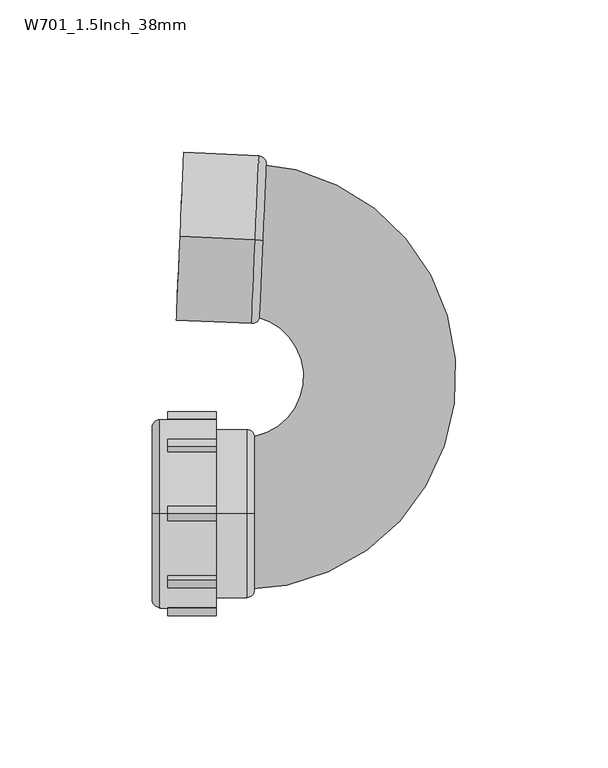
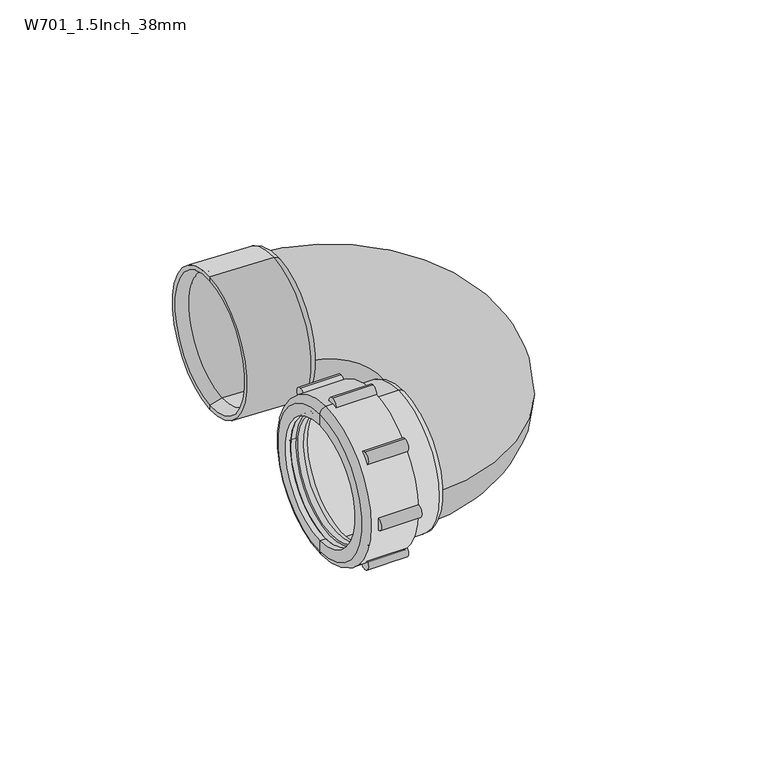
"""IFC4 building model written with IfcOpenShell, lengths in millimetres: pipe fitting geometry, Durapipe_PipeFitting_VulcatheneMechanical_UBend_W70 : W701_1.5Inch_38mm."""

from ifc_helpers import new_model, si_unit, point, frame, frame_2d, origin, place, context, project, spatial, polyline, circle_curve, ellipse_curve, trimmed, segment, composite_curve, outline, extrude, source, transform, mapped, element, save
from ifc_brep_helpers import plane_surface, cylinder_surface, revolved_surface, advanced_brep


def w701_1_5inch_38mm_534380e9(model_context):
    return source(origin(), model_context, "Body", "SolidModel", [
        advanced_brep(
        [(-39.9679341, 89.8655693, -27.65), (-39.9679341, 89.8655693, 27.65), (-37.4703136, 89.7565208, 25.15), (-37.4703136, 89.7565208, -25.15), (-64.6444252, 90.9429681, -27.65), (-64.6444252, 90.9429681, 27.65), (-64.6444252, 90.9429681, -26.0), (-64.6444252, 90.9429681, 26.0), (-43.0649836, 90.0007894, -24.3), (-43.0649836, 90.0007894, 24.3), (-59.9488986, 90.737957, 24.3), (-59.9488986, 90.737957, -24.3), (-42.0659354, 89.95717, -23.3), (-42.0659354, 89.95717, 23.3), (-42.0659354, 89.95717, 0.0), (-37.4703136, 89.7565208, 0.0)],
        [
            (0, 1, circle_curve(frame((-39.9679341, 89.8655693, 0.0), z_axis=(0.9990482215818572, -0.043619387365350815, 0.0), x_axis=(0.0, 0.0, 1.0)), 27.65)),
            (1, 2, circle_curve(frame((-39.9679341, 89.8655693, 25.15), z_axis=(0.04361938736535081, 0.999048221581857, 0.0), x_axis=(0.0, 0.0, 1.0)), 2.5)),
            (2, 3, circle_curve(frame((-37.4703136, 89.7565208, 0.0), z_axis=(-0.9990482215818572, 0.043619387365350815, 0.0), x_axis=(0.0, 0.0, 1.0)), 25.15)),
            (3, 0, circle_curve(frame((-39.9679341, 89.8655693, -25.15), z_axis=(0.04361938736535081, 0.999048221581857, 0.0), x_axis=(0.0, 0.0, -1.0)), 2.5)),
            (1, 0, circle_curve(frame((-39.9679341, 89.8655693, 0.0), z_axis=(0.9990482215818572, -0.043619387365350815, 0.0), x_axis=(0.0, 0.0, 1.0)), 27.65)),
            (3, 2, circle_curve(frame((-37.4703136, 89.7565208, 0.0), z_axis=(-0.9990482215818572, 0.043619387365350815, 0.0), x_axis=(0.0, 0.0, 1.0)), 25.15)),
            (4, 5, circle_curve(frame((-64.6444252, 90.9429681, 0.0), z_axis=(0.9990482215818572, -0.043619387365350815, 0.0), x_axis=(0.0, 0.0, 1.0)), 27.65)),
            (5, 1),
            (0, 4),
            (5, 4, circle_curve(frame((-64.6444252, 90.9429681, 0.0), z_axis=(0.9990482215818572, -0.043619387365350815, 0.0), x_axis=(0.0, 0.0, 1.0)), 27.65)),
            (6, 7, circle_curve(frame((-64.6444252, 90.9429681, 0.0), z_axis=(0.9990482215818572, -0.043619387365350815, 0.0), x_axis=(0.0, 0.0, 1.0)), 26.0)),
            (7, 5),
            (4, 6),
            (7, 6, circle_curve(frame((-64.6444252, 90.9429681, 0.0), z_axis=(0.9990482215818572, -0.043619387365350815, 0.0), x_axis=(0.0, 0.0, 1.0)), 26.0)),
            (8, 9, circle_curve(frame((-43.0649836, 90.0007894, 0.0), z_axis=(0.9990482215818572, -0.043619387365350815, 0.0), x_axis=(0.0, 0.0, 1.0)), 24.3)),
            (9, 10),
            (10, 11, circle_curve(frame((-59.9488986, 90.737957, 0.0), z_axis=(-0.9990482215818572, 0.043619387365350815, 0.0), x_axis=(0.0, 0.0, 1.0)), 24.3)),
            (11, 8),
            (9, 8, circle_curve(frame((-43.0649836, 90.0007894, 0.0), z_axis=(0.9990482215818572, -0.043619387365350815, 0.0), x_axis=(0.0, 0.0, 1.0)), 24.3)),
            (11, 10, circle_curve(frame((-59.9488986, 90.737957, 0.0), z_axis=(-0.9990482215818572, 0.043619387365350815, 0.0), x_axis=(0.0, 0.0, 1.0)), 24.3)),
            (12, 13, circle_curve(frame((-42.0659354, 89.95717, 0.0), z_axis=(0.9990482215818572, -0.043619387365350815, 0.0), x_axis=(0.0, 0.0, 1.0)), 23.3)),
            (13, 9, circle_curve(frame((-43.0649836, 90.0007894, 23.3), z_axis=(-0.04361938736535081, -0.999048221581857, 0.0), x_axis=(0.0, 0.0, 1.0)), 1.0)),
            (8, 12, circle_curve(frame((-43.0649836, 90.0007894, -23.3), z_axis=(-0.04361938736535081, -0.999048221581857, 0.0), x_axis=(0.0, 0.0, -1.0)), 1.0)),
            (13, 12, circle_curve(frame((-42.0659354, 89.95717, 0.0), z_axis=(0.9990482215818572, -0.043619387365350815, 0.0), x_axis=(0.0, 0.0, 1.0)), 23.3)),
            (14, 13),
            (12, 14),
            (2, 15),
            (15, 3),
            (10, 7),
            (6, 11),
        ],
        [
            revolved_surface(trimmed(ellipse_curve(frame((-39.9679341, 89.8655693, 25.15), z_axis=(-0.04361938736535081, -0.999048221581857, 0.0), x_axis=(0.0, 0.0, 1.0)), 2.5, 2.5), [point((-37.4703136, 89.7565208, 25.15))], [point((-39.9679341, 89.8655693, 27.65))], True, "CARTESIAN"), (-76.3462483, 91.4538808, 0.0), (-0.999048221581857, 0.04361938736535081, 0.0)),
            cylinder_surface(frame((-76.3462483, 91.4538808, 0.0), z_axis=(-0.999048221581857, 0.04361938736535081, 0.0), x_axis=(0.0, 0.0, 1.0)), 27.65),
            plane_surface(frame((-64.6444252, 90.9429681, 0.0), z_axis=(-0.9990482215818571, 0.043619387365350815, 0.0), x_axis=(0.0, 0.0, 1.0))),
            revolved_surface(polyline([(-59.94889859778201, 90.7379570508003, 24.3), (-43.06498359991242, 90.00078940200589, 24.3)]), (-76.3462483, 91.4538808, 0.0), (-0.999048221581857, 0.04361938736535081, 0.0)),
            revolved_surface(trimmed(ellipse_curve(frame((-43.0649836, 90.0007894, 23.3), z_axis=(0.04361938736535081, 0.999048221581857, 0.0), x_axis=(0.0, 0.0, 1.0)), 1.0, 1.0), [point((-43.0649836, 90.0007894, 24.3))], [point((-42.0659354, 89.95717, 23.3))], True, "CARTESIAN"), (-76.3462483, 91.4538808, 0.0), (-0.999048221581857, 0.04361938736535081, 0.0)),
            plane_surface(frame((-42.0659354, 89.95717, 0.0), z_axis=(-0.9990482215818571, 0.043619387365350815, 0.0), x_axis=(0.0, 0.0, 1.0))),
            plane_surface(frame((-37.4703136, 89.7565208, 0.0), z_axis=(0.9990482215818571, -0.043619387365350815, 0.0), x_axis=(0.0, 0.0, 1.0))),
            revolved_surface(polyline([(-64.6444252, 90.9429681, 26.0), (-59.9488986, 90.737957, 24.3)]), (-76.3462483, 91.4538808, 0.0), (-0.999048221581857, 0.04361938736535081, 0.0)),
        ],
        [
            (0, [[1, 2, 3, 4]]),
            (0, [[5, -4, 6, -2]]),
            (1, [[7, 8, -1, 9]]),
            (1, [[10, -9, -5, -8]]),
            (2, [[11, 12, -7, 13]]),
            (2, [[14, -13, -10, -12]]),
            (3, [[15, 16, 17, 18]]),
            (3, [[19, -18, 20, -16]]),
            (4, [[21, 22, -15, 23]]),
            (4, [[24, -23, -19, -22]]),
            (5, [[25, -21, 26]]),
            (5, [[-26, -24, -25]]),
            (6, [[-3, 27, 28]]),
            (6, [[-6, -28, -27]]),
            (7, [[-17, 29, -11, 30]]),
            (7, [[-20, -30, -14, -29]]),
        ],
    ),
        advanced_brep(
        [(-71.3288078, -18.5969083, -18.5969083), (-71.3288078, 18.5969083, 18.5969083), (-71.3288078, 17.1119841, 17.1119841), (-71.3288078, -17.1119841, -17.1119841), (-66.3288078, -18.3140656, -18.3140656), (-66.3288078, 18.3140656, 18.3140656), (-64.8288078, -18.1019336, -18.1019336), (-64.8288078, 18.1019336, 18.1019336), (-66.3288078, 18.1019336, 18.1019336), (-66.3288078, -18.1019336, -18.1019336), (-64.8288078, -17.1119841, -17.1119841), (-64.8288078, 17.1119841, 17.1119841), (-66.8288078, -17.1119841, -17.1119841), (-66.8288078, 17.1119841, 17.1119841), (-66.8288078, -16.5462987, -16.5462987), (-66.8288078, 16.5462987, 16.5462987), (-69.1288078, -17.1119841, -17.1119841), (-69.1288078, 17.1119841, 17.1119841), (-69.1288078, 16.5462987, 16.5462987), (-69.1288078, -16.5462987, -16.5462987)],
        [
            (0, 1, circle_curve(frame((-71.3288078, 0.0, 0.0), z_axis=(-1.0, 0.0, 0.0), x_axis=(0.0, 0.7071067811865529, 0.7071067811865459)), 26.3)),
            (1, 2),
            (2, 3, circle_curve(frame((-71.3288078, 0.0, 0.0), z_axis=(1.0, 0.0, 0.0), x_axis=(0.0, 0.7071067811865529, 0.7071067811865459)), 24.2)),
            (3, 0),
            (1, 0, circle_curve(frame((-71.3288078, 0.0, 0.0), z_axis=(-1.0, 0.0, 0.0), x_axis=(0.0, 0.7071067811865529, 0.7071067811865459)), 26.3)),
            (3, 2, circle_curve(frame((-71.3288078, 0.0, 0.0), z_axis=(1.0, 0.0, 0.0), x_axis=(0.0, 0.7071067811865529, 0.7071067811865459)), 24.2)),
            (4, 5, circle_curve(frame((-66.3288078, 0.0, 0.0), z_axis=(-1.0, 0.0, 0.0), x_axis=(0.0, 0.7071067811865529, 0.7071067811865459)), 25.9)),
            (5, 1),
            (0, 4),
            (5, 4, circle_curve(frame((-66.3288078, 0.0, 0.0), z_axis=(-1.0, 0.0, 0.0), x_axis=(0.0, 0.7071067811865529, 0.7071067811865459)), 25.9)),
            (6, 7, circle_curve(frame((-64.8288078, 0.0, 0.0), z_axis=(-1.0, 0.0, 0.0), x_axis=(0.0, 0.7071067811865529, 0.7071067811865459)), 25.6)),
            (7, 8),
            (8, 9, circle_curve(frame((-66.3288078, 0.0, 0.0), z_axis=(1.0, 0.0, 0.0), x_axis=(0.0, 0.7071067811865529, 0.7071067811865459)), 25.6)),
            (9, 6),
            (7, 6, circle_curve(frame((-64.8288078, 0.0, 0.0), z_axis=(-1.0, 0.0, 0.0), x_axis=(0.0, 0.7071067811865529, 0.7071067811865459)), 25.6)),
            (9, 8, circle_curve(frame((-66.3288078, 0.0, 0.0), z_axis=(1.0, 0.0, 0.0), x_axis=(0.0, 0.7071067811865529, 0.7071067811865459)), 25.6)),
            (6, 10),
            (10, 11, circle_curve(frame((-64.8288078, 0.0, 0.0), z_axis=(-1.0, 0.0, 0.0), x_axis=(0.0, 0.7071067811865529, 0.7071067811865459)), 24.2)),
            (11, 7),
            (11, 10, circle_curve(frame((-64.8288078, 0.0, 0.0), z_axis=(-1.0, 0.0, 0.0), x_axis=(0.0, 0.7071067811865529, 0.7071067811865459)), 24.2)),
            (10, 12),
            (12, 13, circle_curve(frame((-66.8288078, 0.0, 0.0), z_axis=(-1.0, 0.0, 0.0), x_axis=(0.0, 0.7071067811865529, 0.7071067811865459)), 24.2)),
            (13, 11),
            (13, 12, circle_curve(frame((-66.8288078, 0.0, 0.0), z_axis=(-1.0, 0.0, 0.0), x_axis=(0.0, 0.7071067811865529, 0.7071067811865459)), 24.2)),
            (12, 14),
            (14, 15, circle_curve(frame((-66.8288078, 0.0, 0.0), z_axis=(-1.0, 0.0, 0.0), x_axis=(0.0, 0.7071067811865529, 0.7071067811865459)), 23.4)),
            (15, 13),
            (15, 14, circle_curve(frame((-66.8288078, 0.0, 0.0), z_axis=(-1.0, 0.0, 0.0), x_axis=(0.0, 0.7071067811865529, 0.7071067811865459)), 23.4)),
            (16, 17, circle_curve(frame((-69.1288078, 0.0, 0.0), z_axis=(-1.0, 0.0, 0.0), x_axis=(0.0, 0.7071067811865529, 0.7071067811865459)), 24.2)),
            (17, 18),
            (18, 19, circle_curve(frame((-69.1288078, 0.0, 0.0), z_axis=(1.0, 0.0, 0.0), x_axis=(0.0, 0.7071067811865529, 0.7071067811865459)), 23.4)),
            (19, 16),
            (17, 16, circle_curve(frame((-69.1288078, 0.0, 0.0), z_axis=(-1.0, 0.0, 0.0), x_axis=(0.0, 0.7071067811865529, 0.7071067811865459)), 24.2)),
            (19, 18, circle_curve(frame((-69.1288078, 0.0, 0.0), z_axis=(1.0, 0.0, 0.0), x_axis=(0.0, 0.7071067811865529, 0.7071067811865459)), 23.4)),
            (2, 17),
            (16, 3),
            (14, 19),
            (18, 15),
            (4, 9),
            (8, 5),
        ],
        [
            plane_surface(frame((-71.3288078, 0.0, 0.0), z_axis=(-1.0, 0.0, 0.0), x_axis=(0.0, 0.707106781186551, 0.707106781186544))),
            revolved_surface(polyline([(-71.3288078, 18.5969083, 18.5969083), (-66.3288078, 18.3140656, 18.3140656)]), (-76.3288078, 0.0, 0.0), (1.0000000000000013, 0.0, 0.0)),
            cylinder_surface(frame((-62.7581521, 0.0, 0.0), z_axis=(1.0000000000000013, 0.0, 0.0), x_axis=(0.0, 0.7071067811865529, 0.7071067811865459)), 25.6),
            plane_surface(frame((-64.8288078, 0.0, 0.0), z_axis=(1.0, 0.0, 0.0), x_axis=(0.0, 0.707106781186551, 0.707106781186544))),
            revolved_surface(polyline([(-64.82880780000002, 17.11198410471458, 17.11198410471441), (-66.82880780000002, 17.11198410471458, 17.11198410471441)]), (-61.3358169, 0.0, 0.0), (1.0000000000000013, 0.0, 0.0)),
            plane_surface(frame((-66.8288078, 0.0, 0.0), z_axis=(1.0, 0.0, 0.0), x_axis=(0.0, 0.707106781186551, 0.707106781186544))),
            plane_surface(frame((-69.1288078, 0.0, 0.0), z_axis=(-1.0, 0.0, 0.0), x_axis=(0.0, 0.707106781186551, 0.707106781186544))),
            revolved_surface(polyline([(-69.12880779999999, 17.11198410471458, 17.11198410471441), (-71.32880779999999, 17.11198410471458, 17.11198410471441)]), (-76.3288078, 0.0, 0.0), (1.0000000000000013, 0.0, 0.0)),
            revolved_surface(polyline([(-66.82880779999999, 16.546298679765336, 16.546298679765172), (-69.12880779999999, 16.546298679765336, 16.546298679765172)]), (-72.8950003, 0.0, 0.0), (1.0000000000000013, 0.0, 0.0)),
            plane_surface(frame((-66.3288078, 0.0, 0.0), z_axis=(1.0, 0.0, 0.0), x_axis=(0.0, 0.707106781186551, 0.707106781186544))),
        ],
        [
            (0, [[1, 2, 3, 4]]),
            (0, [[-2, 5, -4, 6]]),
            (1, [[7, 8, -1, 9]]),
            (1, [[10, -9, -5, -8]]),
            (2, [[11, 12, 13, 14]]),
            (2, [[-12, 15, -14, 16]]),
            (3, [[-11, 17, 18, 19]]),
            (3, [[-15, -19, 20, -17]]),
            (4, [[21, 22, 23, -18]]),
            (4, [[-21, -20, -23, 24]]),
            (5, [[-22, 25, 26, 27]]),
            (5, [[-24, -27, 28, -25]]),
            (6, [[29, 30, 31, 32]]),
            (6, [[33, -32, 34, -30]]),
            (7, [[-3, 35, -29, 36]]),
            (7, [[-6, -36, -33, -35]]),
            (8, [[37, -31, 38, -26]]),
            (8, [[-37, -28, -38, -34]]),
            (9, [[-7, 39, -13, 40]]),
            (9, [[-10, -40, -16, -39]]),
        ],
    ),
        advanced_brep(
        [(-52.8288078, 0.0, -31.0), (-52.8288078, 0.0, 31.0), (-71.2288078, 0.0, 31.0), (-71.2288078, 0.0, -31.0), (-52.8288078, 0.0, -27.7), (-52.8288078, 0.0, 27.7), (-73.7288078, 0.0, -28.5), (-73.7288078, 0.0, 28.5), (-73.7288078, 0.0, 24.0), (-73.7288078, 0.0, -24.0), (-71.3288078, 0.0, -26.0), (-71.3288078, 0.0, 26.0), (-44.0288078, 0.0, 26.0), (-44.0288078, 0.0, -26.0), (-71.3288078, 0.0, -24.0), (-71.3288078, 0.0, 24.0), (-42.7288078, 0.0, -27.7), (-42.7288078, 0.0, 27.7), (-40.2288078, 0.0, -25.2), (-40.2288078, 0.0, 25.2), (-40.2288078, 0.0, 0.0), (-44.0288078, 0.0, 0.0)],
        [
            (0, 1, circle_curve(frame((-52.8288078, 0.0, 0.0), z_axis=(-1.0, 0.0, 0.0), x_axis=(0.0, 0.0, 1.0000000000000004)), 31.0)),
            (1, 2),
            (2, 3, circle_curve(frame((-71.2288078, 0.0, 0.0), z_axis=(1.0, 0.0, 0.0), x_axis=(0.0, 0.0, 1.0000000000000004)), 31.0)),
            (3, 0),
            (1, 0, circle_curve(frame((-52.8288078, 0.0, 0.0), z_axis=(-1.0, 0.0, 0.0), x_axis=(0.0, 0.0, 1.0000000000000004)), 31.0)),
            (3, 2, circle_curve(frame((-71.2288078, 0.0, 0.0), z_axis=(1.0, 0.0, 0.0), x_axis=(0.0, 0.0, 1.0000000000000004)), 31.0)),
            (4, 5, circle_curve(frame((-52.8288078, 0.0, 0.0), z_axis=(-1.0, 0.0, 0.0), x_axis=(0.0, 0.0, 1.0000000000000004)), 27.7)),
            (5, 1),
            (0, 4),
            (5, 4, circle_curve(frame((-52.8288078, 0.0, 0.0), z_axis=(-1.0, 0.0, 0.0), x_axis=(0.0, 0.0, 1.0000000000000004)), 27.7)),
            (6, 7, circle_curve(frame((-73.7288078, 0.0, 0.0), z_axis=(-1.0, 0.0, 0.0), x_axis=(0.0, 0.0, 1.0000000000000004)), 28.5)),
            (7, 8),
            (8, 9, circle_curve(frame((-73.7288078, 0.0, 0.0), z_axis=(1.0, 0.0, 0.0), x_axis=(0.0, 0.0, 1.0000000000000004)), 24.0)),
            (9, 6),
            (7, 6, circle_curve(frame((-73.7288078, 0.0, 0.0), z_axis=(-1.0, 0.0, 0.0), x_axis=(0.0, 0.0, 1.0000000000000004)), 28.5)),
            (9, 8, circle_curve(frame((-73.7288078, 0.0, 0.0), z_axis=(1.0, 0.0, 0.0), x_axis=(0.0, 0.0, 1.0000000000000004)), 24.0)),
            (2, 7, circle_curve(frame((-71.2288078, 0.0, 28.5), z_axis=(0.0, -1.0000000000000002, 0.0), x_axis=(-1.0000000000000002, 0.0, 0.0)), 2.5)),
            (6, 3, circle_curve(frame((-71.2288078, 0.0, -28.5), z_axis=(0.0, -1.0000000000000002, 0.0), x_axis=(-1.0000000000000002, 0.0, 0.0)), 2.5)),
            (10, 11, circle_curve(frame((-71.3288078, 0.0, 0.0), z_axis=(-1.0, 0.0, 0.0), x_axis=(0.0, 0.0, 1.0000000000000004)), 26.0)),
            (11, 12),
            (12, 13, circle_curve(frame((-44.0288078, 0.0, 0.0), z_axis=(1.0, 0.0, 0.0), x_axis=(0.0, 0.0, 1.0000000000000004)), 26.0)),
            (13, 10),
            (11, 10, circle_curve(frame((-71.3288078, 0.0, 0.0), z_axis=(-1.0, 0.0, 0.0), x_axis=(0.0, 0.0, 1.0000000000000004)), 26.0)),
            (13, 12, circle_curve(frame((-44.0288078, 0.0, 0.0), z_axis=(1.0, 0.0, 0.0), x_axis=(0.0, 0.0, 1.0000000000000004)), 26.0)),
            (14, 15, circle_curve(frame((-71.3288078, 0.0, 0.0), z_axis=(-1.0, 0.0, 0.0), x_axis=(0.0, 0.0, 1.0000000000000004)), 24.0)),
            (15, 11),
            (10, 14),
            (15, 14, circle_curve(frame((-71.3288078, 0.0, 0.0), z_axis=(-1.0, 0.0, 0.0), x_axis=(0.0, 0.0, 1.0000000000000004)), 24.0)),
            (8, 15),
            (14, 9),
            (16, 17, circle_curve(frame((-42.7288078, 0.0, 0.0), z_axis=(-1.0, 0.0, 0.0), x_axis=(0.0, 0.0, 1.0000000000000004)), 27.7)),
            (17, 5),
            (4, 16),
            (17, 16, circle_curve(frame((-42.7288078, 0.0, 0.0), z_axis=(-1.0, 0.0, 0.0), x_axis=(0.0, 0.0, 1.0000000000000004)), 27.7)),
            (18, 19, circle_curve(frame((-40.2288078, 0.0, 0.0), z_axis=(-1.0, 0.0, 0.0), x_axis=(0.0, 0.0, 1.0000000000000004)), 25.2)),
            (19, 17, circle_curve(frame((-42.7288078, 0.0, 25.2), z_axis=(0.0, -1.0000000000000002, 0.0), x_axis=(-1.0000000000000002, 0.0, 0.0)), 2.5)),
            (16, 18, circle_curve(frame((-42.7288078, 0.0, -25.2), z_axis=(0.0, -1.0000000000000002, 0.0), x_axis=(-1.0000000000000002, 0.0, 0.0)), 2.5)),
            (19, 18, circle_curve(frame((-40.2288078, 0.0, 0.0), z_axis=(-1.0, 0.0, 0.0), x_axis=(0.0, 0.0, 1.0000000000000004)), 25.2)),
            (20, 19),
            (18, 20),
            (12, 21),
            (21, 13),
        ],
        [
            cylinder_surface(frame((-1634.5306262, 0.0, 0.0), z_axis=(1.0000000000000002, 0.0, 0.0), x_axis=(0.0, 0.0, 1.0000000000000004)), 31.0),
            plane_surface(frame((-52.8288078, 0.0, 0.0), z_axis=(1.0, 0.0, 0.0), x_axis=(0.0, 0.0, 1.0))),
            plane_surface(frame((-73.7288078, 0.0, 0.0), z_axis=(-1.0, 0.0, 0.0), x_axis=(0.0, 0.0, 1.0))),
            revolved_surface(trimmed(ellipse_curve(frame((-71.2288078, 0.0, 28.5), z_axis=(0.0, 1.0000000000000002, 0.0), x_axis=(-1.0000000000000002, 0.0, 0.0)), 2.5, 2.5), [point((-73.7288078, 0.0, 28.5))], [point((-71.2288078, 0.0, 31.0))], True, "CARTESIAN"), (-1634.5306262, 0.0, 0.0), (1.0000000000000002, 0.0, 0.0)),
            revolved_surface(polyline([(-44.028807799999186, 0.0, 26.00000000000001), (-71.32880779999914, 0.0, 26.00000000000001)]), (-1634.5306262, 0.0, 0.0), (1.0000000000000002, 0.0, 0.0)),
            plane_surface(frame((-71.3288078, 0.0, 0.0), z_axis=(1.0, 0.0, 0.0), x_axis=(0.0, 0.0, 1.0))),
            revolved_surface(polyline([(-71.32880779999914, 0.0, 24.00000000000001), (-73.728807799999, 0.0, 24.00000000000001)]), (-1634.5306262, 0.0, 0.0), (1.0000000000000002, 0.0, 0.0)),
            cylinder_surface(frame((-1634.5306262, 0.0, 0.0), z_axis=(1.0000000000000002, 0.0, 0.0), x_axis=(0.0, 0.0, 1.0000000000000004)), 27.7),
            revolved_surface(trimmed(ellipse_curve(frame((-42.7288078, 0.0, 25.2), z_axis=(0.0, 1.0000000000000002, 0.0), x_axis=(-1.0000000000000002, 0.0, 0.0)), 2.5, 2.5), [point((-42.7288078, 0.0, 27.7))], [point((-40.2288078, 0.0, 25.2))], True, "CARTESIAN"), (-1634.5306262, 0.0, 0.0), (1.0000000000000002, 0.0, 0.0)),
            plane_surface(frame((-40.2288078, 0.0, 0.0), z_axis=(1.0, 0.0, 0.0), x_axis=(0.0, 0.0, 1.0))),
            plane_surface(frame((-44.0288078, 0.0, 0.0), z_axis=(-1.0, 0.0, 0.0), x_axis=(0.0, 0.0, 1.0))),
        ],
        [
            (0, [[1, 2, 3, 4]]),
            (0, [[5, -4, 6, -2]]),
            (1, [[7, 8, -1, 9]]),
            (1, [[10, -9, -5, -8]]),
            (2, [[11, 12, 13, 14]]),
            (2, [[15, -14, 16, -12]]),
            (3, [[-3, 17, -11, 18]]),
            (3, [[-6, -18, -15, -17]]),
            (4, [[19, 20, 21, 22]]),
            (4, [[23, -22, 24, -20]]),
            (5, [[25, 26, -19, 27]]),
            (5, [[28, -27, -23, -26]]),
            (6, [[-13, 29, -25, 30]]),
            (6, [[-16, -30, -28, -29]]),
            (7, [[31, 32, -7, 33]]),
            (7, [[34, -33, -10, -32]]),
            (8, [[35, 36, -31, 37]]),
            (8, [[38, -37, -34, -36]]),
            (9, [[39, -35, 40]]),
            (9, [[-40, -38, -39]]),
            (10, [[-21, 41, 42]]),
            (10, [[-24, -42, -41]]),
        ],
    ),
        extrude(outline(composite_curve([segment(trimmed(circle_curve(frame_2d((31.0, 0.0)), 2.5), [point((31.0, -2.5))], [point((31.0, 2.5))], False, "CARTESIAN"), True, "CONTINUOUS"), segment(trimmed(circle_curve(frame_2d((31.0, 0.0)), 2.5), [point((31.0, 2.5))], [point((31.0, -2.5))], False, "CARTESIAN"), True, "CONTINUOUS")], self_intersect=False)), frame((-68.7288078, 0.0, 0.0), z_axis=(1.0, 0.0, 0.0), x_axis=(0.0, 1.0, 0.0)), (0.0, 0.0, 1.0), 15.9),
        extrude(outline(composite_curve([segment(trimmed(circle_curve(frame_2d((21.9203102, 21.9203102)), 2.5), [point((21.9203102, 19.4203102))], [point((21.9203102, 24.4203102))], False, "CARTESIAN"), True, "CONTINUOUS"), segment(trimmed(circle_curve(frame_2d((21.9203102, 21.9203102)), 2.5), [point((21.9203102, 24.4203102))], [point((21.9203102, 19.4203102))], False, "CARTESIAN"), True, "CONTINUOUS")], self_intersect=False)), frame((-68.7288078, 0.0, 0.0), z_axis=(1.0, 0.0, 0.0), x_axis=(0.0, 1.0, 0.0)), (0.0, 0.0, 1.0), 15.9),
        extrude(outline(composite_curve([segment(trimmed(circle_curve(frame_2d((0.0, 31.0)), 2.5), [point((0.0, 28.5))], [point((0.0, 33.5))], False, "CARTESIAN"), True, "CONTINUOUS"), segment(trimmed(circle_curve(frame_2d((0.0, 31.0)), 2.5), [point((0.0, 33.5))], [point((0.0, 28.5))], False, "CARTESIAN"), True, "CONTINUOUS")], self_intersect=False)), frame((-68.7288078, 0.0, 0.0), z_axis=(1.0, 0.0, 0.0), x_axis=(0.0, 1.0, 0.0)), (0.0, 0.0, 1.0), 15.9),
        extrude(outline(composite_curve([segment(trimmed(circle_curve(frame_2d((-21.9203102, 21.9203102)), 2.5), [point((-21.9203102, 19.4203102))], [point((-21.9203102, 24.4203102))], False, "CARTESIAN"), True, "CONTINUOUS"), segment(trimmed(circle_curve(frame_2d((-21.9203102, 21.9203102)), 2.5), [point((-21.9203102, 24.4203102))], [point((-21.9203102, 19.4203102))], False, "CARTESIAN"), True, "CONTINUOUS")], self_intersect=False)), frame((-68.7288078, 0.0, 0.0), z_axis=(1.0, 0.0, 0.0), x_axis=(0.0, 1.0, 0.0)), (0.0, 0.0, 1.0), 15.9),
        extrude(outline(composite_curve([segment(trimmed(circle_curve(frame_2d((-31.0, 0.0)), 2.5), [point((-31.0, -2.5))], [point((-31.0, 2.5))], False, "CARTESIAN"), True, "CONTINUOUS"), segment(trimmed(circle_curve(frame_2d((-31.0, 0.0)), 2.5), [point((-31.0, 2.5))], [point((-31.0, -2.5))], False, "CARTESIAN"), True, "CONTINUOUS")], self_intersect=False)), frame((-68.7288078, 0.0, 0.0), z_axis=(1.0, 0.0, 0.0), x_axis=(0.0, 1.0, 0.0)), (0.0, 0.0, 1.0), 15.9),
        extrude(outline(composite_curve([segment(trimmed(circle_curve(frame_2d((-21.9203102, -21.9203102)), 2.5), [point((-21.9203102, -24.4203102))], [point((-21.9203102, -19.4203102))], False, "CARTESIAN"), True, "CONTINUOUS"), segment(trimmed(circle_curve(frame_2d((-21.9203102, -21.9203102)), 2.5), [point((-21.9203102, -19.4203102))], [point((-21.9203102, -24.4203102))], False, "CARTESIAN"), True, "CONTINUOUS")], self_intersect=False)), frame((-68.7288078, 0.0, 0.0), z_axis=(1.0, 0.0, 0.0), x_axis=(0.0, 1.0, 0.0)), (0.0, 0.0, 1.0), 15.9),
        extrude(outline(composite_curve([segment(trimmed(circle_curve(frame_2d((0.0, -31.0)), 2.5), [point((0.0, -33.5))], [point((0.0, -28.5))], False, "CARTESIAN"), True, "CONTINUOUS"), segment(trimmed(circle_curve(frame_2d((0.0, -31.0)), 2.5), [point((0.0, -28.5))], [point((0.0, -33.5))], False, "CARTESIAN"), True, "CONTINUOUS")], self_intersect=False)), frame((-68.7288078, 0.0, 0.0), z_axis=(1.0, 0.0, 0.0), x_axis=(0.0, 1.0, 0.0)), (0.0, 0.0, 1.0), 15.9),
        extrude(outline(composite_curve([segment(trimmed(circle_curve(frame_2d((21.9203102, -21.9203102)), 2.5), [point((21.9203102, -24.4203102))], [point((21.9203102, -19.4203102))], False, "CARTESIAN"), True, "CONTINUOUS"), segment(trimmed(circle_curve(frame_2d((21.9203102, -21.9203102)), 2.5), [point((21.9203102, -19.4203102))], [point((21.9203102, -24.4203102))], False, "CARTESIAN"), True, "CONTINUOUS")], self_intersect=False)), frame((-68.7288078, 0.0, 0.0), z_axis=(1.0, 0.0, 0.0), x_axis=(0.0, 1.0, 0.0)), (0.0, 0.0, 1.0), 15.9),
        advanced_brep(
        [(-44.0288078, -25.0, 0.0), (-44.0288078, 25.0, 0.0), (-40.9754507, 114.9333755, 0.0), (-43.1564201, 64.9809644, 0.0)],
        [
            (0, 1, circle_curve(frame((-44.0288078, 0.0, 0.0), z_axis=(-1.0, 0.0, 0.0), x_axis=(0.0, 1.0, 0.0)), 25.0)),
            (1, 0, circle_curve(frame((-44.0288078, 0.0, 0.0), z_axis=(-1.0, 0.0, 0.0), x_axis=(0.0, 1.0, 0.0)), 25.0)),
            (2, 3, circle_curve(frame((-42.0659354, 89.95717, 0.0), z_axis=(-0.9990482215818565, 0.0436193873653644, 0.0), x_axis=(-0.0436193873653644, -0.9990482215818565, 0.0)), 25.0)),
            (3, 2, circle_curve(frame((-42.0659354, 89.95717, 0.0), z_axis=(-0.9990482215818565, 0.0436193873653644, 0.0), x_axis=(-0.0436193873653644, -0.9990482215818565, 0.0)), 25.0)),
            (3, 1, circle_curve(frame((-44.0288078, 45.0, 0.0), z_axis=(0.0, 0.0, -1.0), x_axis=(0.0, -1.0, 0.0)), 20.0)),
            (0, 2, circle_curve(frame((-44.0288078, 45.0, 0.0), z_axis=(0.0, 0.0, 1.0), x_axis=(0.0, -1.0, 0.0)), 70.0)),
        ],
        [
            plane_surface(frame((-44.0288078, 0.0, 0.0), z_axis=(-1.0, 0.0, 0.0), x_axis=(0.0, 0.0, 1.0))),
            plane_surface(frame((-42.0659354, 89.95717, 0.0), z_axis=(-0.9990482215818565, 0.04361938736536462, 0.0), x_axis=(0.0, 0.0, 1.0))),
            revolved_surface(trimmed(ellipse_curve(frame((-44.0288078, 0.0, 0.0), z_axis=(-1.0, 0.0, 0.0), x_axis=(0.0, 1.0, 0.0)), 25.0, 25.0), [point((-44.0288078, -25.0, 0.0))], [point((-44.0288078, 25.0, 0.0))], True, "CARTESIAN"), (-44.0288078, 45.0, 0.0), (0.0, 0.0, 1.0)),
            revolved_surface(trimmed(ellipse_curve(frame((-44.0288078, 0.0, 0.0), z_axis=(-1.0, 0.0, 0.0), x_axis=(0.0, 1.0, 0.0)), 25.0, 25.0), [point((-44.0288078, 25.0, 0.0))], [point((-44.0288078, -25.0, 0.0))], True, "CARTESIAN"), (-44.0288078, 45.0, 0.0), (0.0, 0.0, 1.0)),
        ],
        [
            (0, [[1, 2]]),
            (1, [[3, 4]]),
            (2, [[5, -1, 6, -4]]),
            (3, [[-6, -2, -5, -3]]),
        ],
    ),
    ])


if __name__ == "__main__":
    model = new_model("IFC4")
    model_context = context("Model", 3, world=origin())
    ifc_project = project(units=[si_unit("LENGTHUNIT", "METRE", prefix="MILLI")], contexts=[model_context])
    site = spatial("IfcSite", under=ifc_project)
    building = spatial("IfcBuilding", under=site)
    placement = place(None, origin())
    w701_1_5inch_38mm_shape = w701_1_5inch_38mm_534380e9(model_context)
    element("IfcPipeFitting", 1, ObjectType="Durapipe_PipeFitting_VulcatheneMechanical_UBend_W70 : W701_1.5Inch_38mm", at=placement, inside=building, context=model_context, shape_type="MappedRepresentation", body=[
        mapped(w701_1_5inch_38mm_shape, transform((0.0, 0.0, 0.0), x_axis=(1.0, 0.0, 0.0), y_axis=(0.0, 1.0, 0.0), z_axis=(0.0, 0.0, 1.0))),
    ])
    save(model, "model.ifc")
